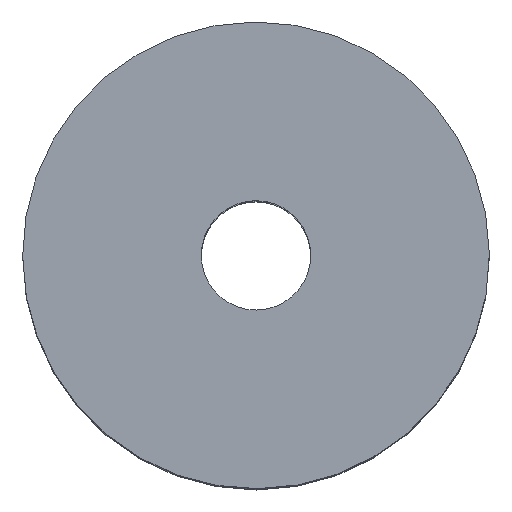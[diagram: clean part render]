
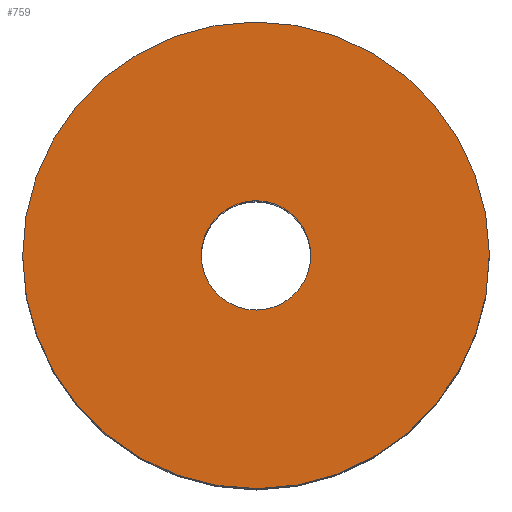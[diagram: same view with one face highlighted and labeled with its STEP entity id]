
A CAD part, top view. The second image highlights one B-rep face of the part: STEP entity #759.
In plain terms, the highlighted planar face has unit normal (0, 0, 1).
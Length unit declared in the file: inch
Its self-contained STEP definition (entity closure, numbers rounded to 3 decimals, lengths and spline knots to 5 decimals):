
#158=PLANE('',#802);
#172=FACE_BOUND('',#273,.T.);
#216=FACE_OUTER_BOUND('',#272,.T.);
#272=EDGE_LOOP('',(#656));
#273=EDGE_LOOP('',(#657));
#296=CIRCLE('',#801,0.23438);
#297=CIRCLE('',#803,1.);
#366=VERTEX_POINT('',#10017);
#367=VERTEX_POINT('',#10020);
#464=EDGE_CURVE('',#366,#366,#296,.T.);
#465=EDGE_CURVE('',#367,#367,#297,.T.);
#656=ORIENTED_EDGE('',*,*,#465,.F.);
#657=ORIENTED_EDGE('',*,*,#464,.T.);
#759=ADVANCED_FACE('',(#216,#172),#158,.T.);
#801=AXIS2_PLACEMENT_3D('',#10018,#909,#910);
#802=AXIS2_PLACEMENT_3D('',#10019,#911,#912);
#803=AXIS2_PLACEMENT_3D('',#10021,#913,#914);
#909=DIRECTION('center_axis',(0.,0.,
-1.));
#910=DIRECTION('ref_axis',(-0.648,0.762,0.));
#911=DIRECTION('center_axis',(0.,0.,
1.));
#912=DIRECTION('ref_axis',(0.648,-0.762,0.));
#913=DIRECTION('center_axis',(0.,0.,
-1.));
#914=DIRECTION('ref_axis',(-0.648,0.762,0.));
#10017=CARTESIAN_POINT('',(-0.15181,0.17857,3.125));
#10018=CARTESIAN_POINT('Origin',(0.,0.,
3.125));
#10019=CARTESIAN_POINT('Origin',(-0.39976,0.47022,3.125));
#10020=CARTESIAN_POINT('',(-0.64772,0.76188,3.125));
#10021=CARTESIAN_POINT('Origin',(0.,0.,
3.125));
